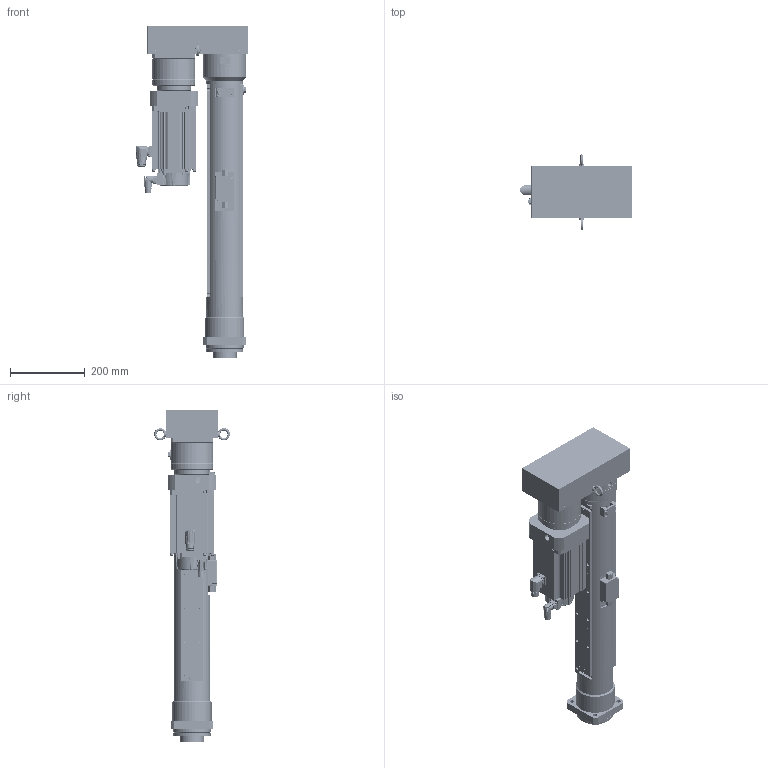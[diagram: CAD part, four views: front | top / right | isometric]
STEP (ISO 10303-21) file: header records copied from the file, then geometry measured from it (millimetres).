
FILE_DESCRIPTION( ('This file contains a STEP AP42 implementation' ,'as created by ZW3D STEP Interface translator.') ,'2;1' );
FILE_NAME( 'OACIS-DC-P025-P030-500-215-A6V400_V20.51.stp' ,'26 422.1340 0', (''), ('ZWCAD Software Co.'), 'Version 1.0', 'ZW3D to STEP translator', '' );
FILE_SCHEMA(('AUTOMOTIVE_DESIGN { 1 0 10303 214 1 1 1 1 }'));
Length unit declared in the file: millimetre
Products named in the file (1): 0
Bounding box: 299.5 x 202.6 x 888 mm (x, y, z)
Volume: 10984130.7 mm3; surface area: 1788796.6 mm2
Topology: 52 solids, 55 shells, 3624 faces, 9359 edges, 6132 vertices
Faces by surface type: cylinder 1668, plane 1440, cone 362, torus 109, bspline 25, sphere 20
Full cylindrical faces by diameter (mm): 1.25 x12, 1.6 x8, 2.232 x6, 2.459 x5, 2.75 x4, 2.8 x1, 3.2 x5, 3.242 x10, 3.3 x102, 4 x8, 4.134 x14, 4.2 x4, 4.3 x36, 4.5 x4, 5 x36, 5.5 x9, 6 x4, 6.6 x14, 6.647 x4, 6.8 x42, 7 x12, 8 x44, 8.4 x8, 8.5 x35, 9 x8, 9.5 x4, 10 x8, 10.106 x1, 11 x12, 12 x1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
Entity records: 121889 total; most frequent: CARTESIAN_POINT 25334, DIRECTION 20473, ORIENTED_EDGE 18406, EDGE_CURVE 9245, AXIS2_PLACEMENT_3D 8069, VERTEX_POINT 6068, CIRCLE 4446, VECTOR 4335
